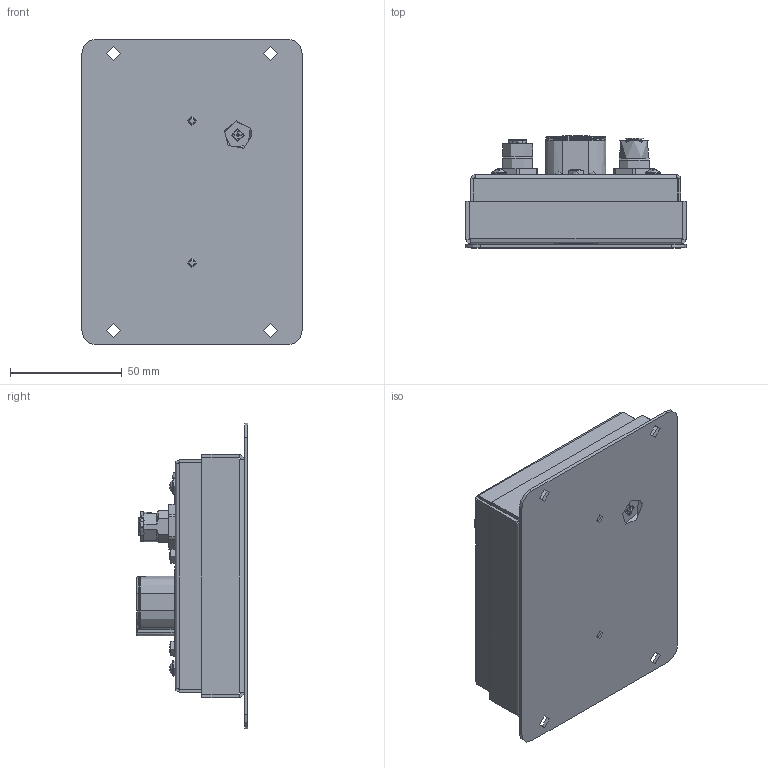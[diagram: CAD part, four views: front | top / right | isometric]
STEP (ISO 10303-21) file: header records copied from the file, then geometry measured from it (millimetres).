
FILE_DESCRIPTION(/* description */ ('','CAx-IF Rec.Pracs.---Representation and Presentation of Product Manufacturing Information (PMI)---3.8---2014-02-18'),/* implementation_level */ '2;1');
FILE_NAME(/* name */ 'S:\Projects\UNI-25A-DC-MC, AX100310, Proj_19019\UNIT ASSEMBLY\RELEASED\P2\AX100310.stp',/* time_stamp */ '2020-06-25T22:51:56-04:00',/* author */ ('tfisher'),/* organization */ (''),/* preprocessor_version */ 'ST-DEVELOPER v16.13',/* originating_system */ 'Autodesk Inventor 2018',/* authorisation */ '');
FILE_SCHEMA (('AP242_MANAGED_MODEL_BASED_3D_ENGINEERING_MIM_LF { 1 0 10303 442 1 1 4 }'));
Products named in the file (1): FG-AX100310 for STEP_Shrinkwrap_1
Bounding box: 98.42 x 49.96 x 136.53 mm (x, y, z)
Volume: 96305.6 mm3; surface area: 95860.1 mm2
Topology: 5 solids, 7 shells, 5530 faces, 14429 edges, 9406 vertices
Faces by surface type: plane 3356, bspline 1226, cylinder 607, torus 181, cone 144, sphere 16
Full cylindrical faces by diameter (mm): 0.762 x6, 0.895 x4, 0.9 x8, 1 x5, 1.1 x5, 1.3 x8, 1.4 x8, 1.422 x3, 1.7 x5, 2 x4, 2.2 x1, 2.388 x8, 2.393 x4, 2.647 x4, 2.794 x2, 2.819 x2, 2.845 x2, 2.95 x1, 3.175 x2, 3.454 x1, 3.505 x4, 4.064 x2, 4.846 x4, 4.953 x1, 5.004 x3, 5.116 x8, 5.385 x12, 5.41 x4, 5.537 x7, 6.147 x3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
Entity records: 178065 total; most frequent: CARTESIAN_POINT 45535, ORIENTED_EDGE 28072, DIRECTION 22511, EDGE_CURVE 14031, LINE 9423, VECTOR 9423, VERTEX_POINT 9310, AXIS2_PLACEMENT_3D 6548
